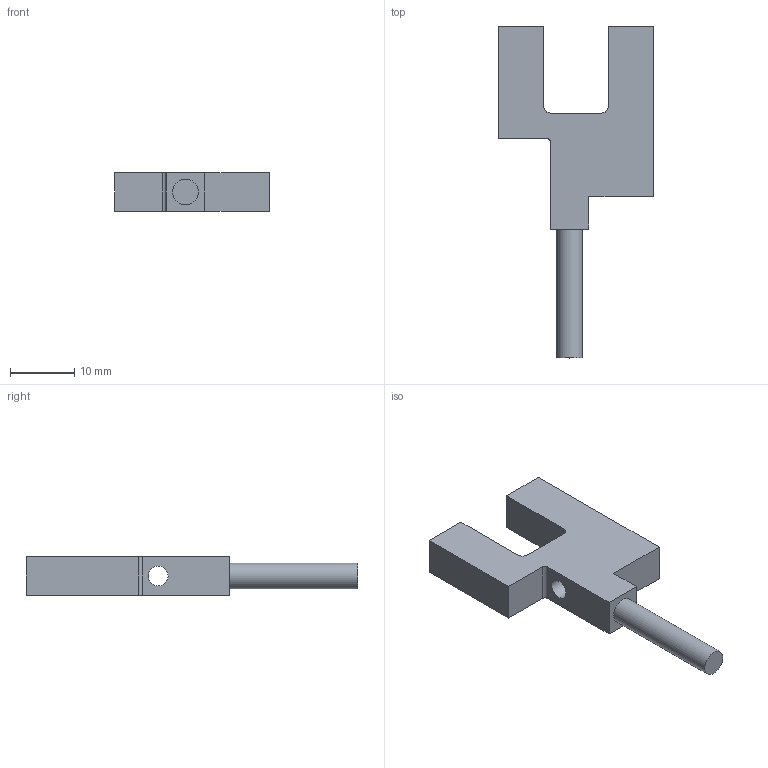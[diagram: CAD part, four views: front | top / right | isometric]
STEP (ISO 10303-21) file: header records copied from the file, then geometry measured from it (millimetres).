
FILE_DESCRIPTION(('FreeCAD Model'),'2;1');
FILE_NAME('Open CASCADE Shape Model','2024-07-22T12:17:35',( 'Thomas Reinhold'),('Eickmann Elektronik GmbH&.Co'), 'Open CASCADE STEP processor 7.6','FreeCAD','Unknown');
FILE_SCHEMA(('AUTOMOTIVE_DESIGN { 1 0 10303 214 1 1 1 1 }'));
Length unit declared in the file: millimetre
Products named in the file (1): Körper
Bounding box: 24 x 51.5 x 6 mm (x, y, z)
Volume: 2887.5 mm3; surface area: 2132.6 mm2
Topology: 1 solids, 1 shells, 20 faces, 51 edges, 34 vertices
Faces by surface type: plane 15, cylinder 5
Full cylindrical faces by diameter (mm): 3.1 x1, 4 x1
Entity records: 631 total; most frequent: CARTESIAN_POINT 106, DIRECTION 103, ORIENTED_EDGE 102, EDGE_CURVE 51, LINE 41, VECTOR 41, VERTEX_POINT 34, AXIS2_PLACEMENT_3D 31
